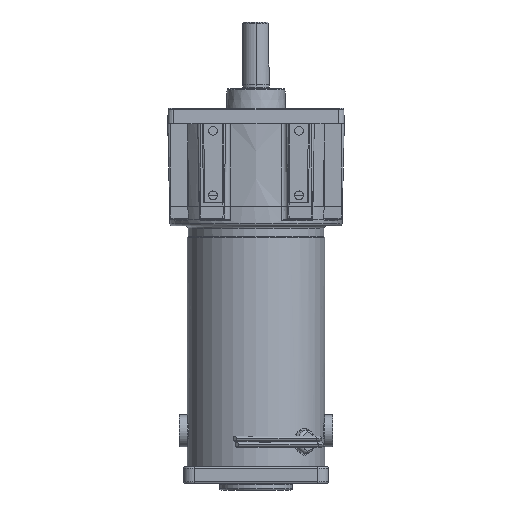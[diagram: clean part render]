
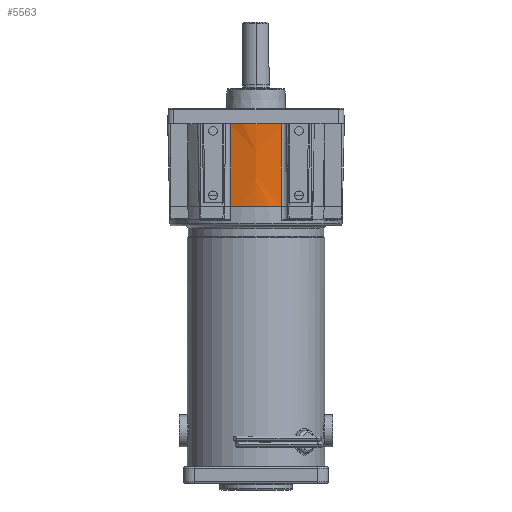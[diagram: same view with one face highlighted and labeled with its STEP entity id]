
A CAD part, front view. The second image highlights one B-rep face of the part: STEP entity #5563.
In plain terms, the highlighted conical face has half-angle 1.3 degrees and reference radius 50.8 mm.
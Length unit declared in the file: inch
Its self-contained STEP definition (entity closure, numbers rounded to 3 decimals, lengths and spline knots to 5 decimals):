
#5312 = VERTEX_POINT ( 'NONE', #17260 ) ;
#5314 = EDGE_CURVE ( 'NONE', #5312, #5315, #17259, .T. ) ;
#5315 = VERTEX_POINT ( 'NONE', #17254 ) ;
#5380 = VERTEX_POINT ( 'NONE', #17431 ) ;
#5382 = EDGE_CURVE ( 'NONE', #5383, #5380, #17430, .T. ) ;
#5383 = VERTEX_POINT ( 'NONE', #17425 ) ;
#5540 = ORIENTED_EDGE ( 'NONE', *, *, #5561, .T. ) ;
#5541 = ORIENTED_EDGE ( 'NONE', *, *, #5382, .T. ) ;
#5542 = ORIENTED_EDGE ( 'NONE', *, *, #5543, .F. ) ;
#5543 = EDGE_CURVE ( 'NONE', #5315, #5380, #17695, .T. ) ;
#5544 = ORIENTED_EDGE ( 'NONE', *, *, #5314, .F. ) ;
#5561 = EDGE_CURVE ( 'NONE', #5312, #5383, #17730, .T. ) ;
#5563 = ADVANCED_FACE ( 'NONE', ( #17726 ), #17724, .T. ) ;
#5564 = EDGE_LOOP ( 'NONE', ( #5540, #5541, #5542, #5544 ) ) ;
#17254 = CARTESIAN_POINT ( 'NONE',  ( 0.60124, -1.95381, -0.37 ) ) ;
#17255 = DIRECTION ( 'NONE',  ( 1., 0., 0. ) ) ;
#17256 = DIRECTION ( 'NONE',  ( 0., 0., 1. ) ) ;
#17257 = CARTESIAN_POINT ( 'NONE',  ( 0., 0., -0.37 ) ) ;
#17258 = AXIS2_PLACEMENT_3D ( 'NONE', #17257, #17256, #17255 ) ;
#17259 = CIRCLE ( 'NONE', #17258, 2.04423 ) ;
#17260 = CARTESIAN_POINT ( 'NONE',  ( -0.60124, -1.95381, -0.37 ) ) ;
#17425 = CARTESIAN_POINT ( 'NONE',  ( -0.5885, -1.91241, -2.2787 ) ) ;
#17426 = DIRECTION ( 'NONE',  ( 1., 0., 0. ) ) ;
#17427 = DIRECTION ( 'NONE',  ( 0., 0., 1. ) ) ;
#17428 = CARTESIAN_POINT ( 'NONE',  ( 0., 0., -2.2787 ) ) ;
#17429 = AXIS2_PLACEMENT_3D ( 'NONE', #17428, #17427, #17426 ) ;
#17430 = CIRCLE ( 'NONE', #17429, 2.00091 ) ;
#17431 = CARTESIAN_POINT ( 'NONE',  ( 0.5885, -1.91241, -2.2787 ) ) ;
#17692 = DIRECTION ( 'NONE',  ( -0.007, 0.022, -1. ) ) ;
#17693 = VECTOR ( 'NONE', #17692, 39.37008 ) ;
#17694 = CARTESIAN_POINT ( 'NONE',  ( 0.58824, -1.91154, -2.319 ) ) ;
#17695 = LINE ( 'NONE', #17694, #17693 ) ;
#17720 = DIRECTION ( 'NONE',  ( 1., 0., 0. ) ) ;
#17721 = DIRECTION ( 'NONE',  ( 0., 0., 1. ) ) ;
#17722 = CARTESIAN_POINT ( 'NONE',  ( 0., 0., -2.319 ) ) ;
#17723 = AXIS2_PLACEMENT_3D ( 'NONE', #17722, #17721, #17720 ) ;
#17724 = CONICAL_SURFACE ( 'NONE', #17723, 2., 0.023 ) ;
#17726 = FACE_OUTER_BOUND ( 'NONE', #5564, .T. ) ;
#17727 = DIRECTION ( 'NONE',  ( 0.007, 0.022, -1. ) ) ;
#17728 = VECTOR ( 'NONE', #17727, 39.37008 ) ;
#17729 = CARTESIAN_POINT ( 'NONE',  ( -0.58824, -1.91154, -2.319 ) ) ;
#17730 = LINE ( 'NONE', #17729, #17728 ) ;
